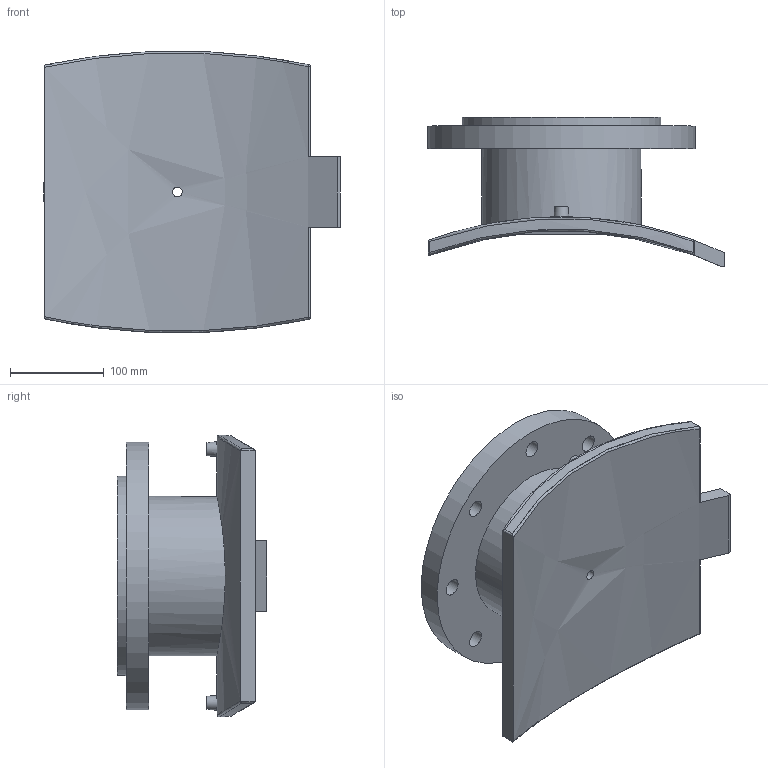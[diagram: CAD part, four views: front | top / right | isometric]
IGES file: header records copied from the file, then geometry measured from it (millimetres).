
Global section: file name: 495904710150T; native system: Autodesk Inventor 2019; preprocessor: unknown; author: KIM; date: 20240403.210039; units: millimetre
Bounding box: 315.47 x 158.89 x 299.55 mm (x, y, z)
Volume: 2903982 mm3; surface area: 408730.5 mm2
Topology: 1 solids, 1 shells, 59 faces, 154 edges, 120 vertices
Faces by surface type: bspline 59
